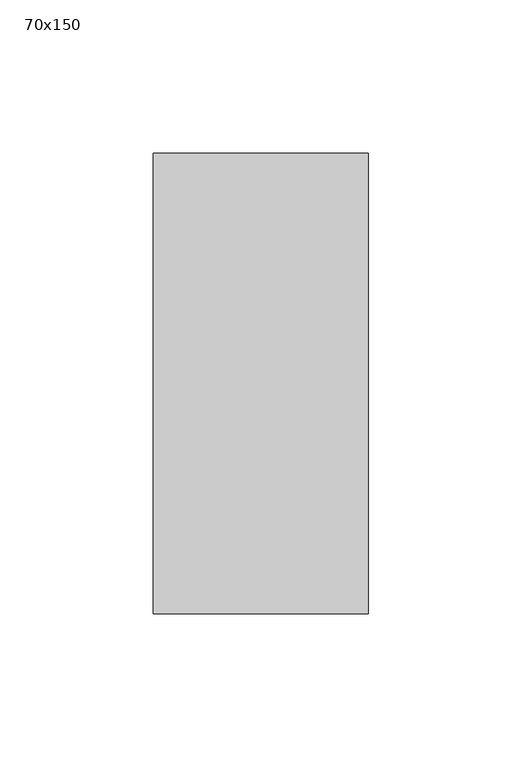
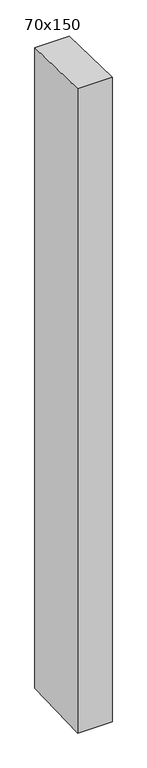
"""IFC4 building model written with IfcOpenShell, lengths in millimetres: member geometry, 長方形のマリオン : 70x150."""

from ifc_helpers import new_model, si_unit, frame, origin, place, context, project, spatial, polyline, outline, extrude, source, transform, mapped, element, save


def member_70x150_3538702d(model_context):
    return source(origin(), model_context, "Body", "SweptSolid", [
        extrude(outline(polyline([(-75.0, 1.3778058), (75.0, -1.3778058), (75.0, -1377.4847874), (-75.0, -1382.2729929), (-75.0, 1.3778058)])), frame((-70.0, 0.0, 0.0), z_axis=(1.0, 0.0, 0.0), x_axis=(0.0, 1.0, 0.0)), (0.0, 0.0, 1.0), 70.0),
    ])


if __name__ == "__main__":
    model = new_model("IFC4")
    model_context = context("Model", 3, world=origin())
    ifc_project = project(units=[si_unit("LENGTHUNIT", "METRE", prefix="MILLI")], contexts=[model_context])
    site = spatial("IfcSite", under=ifc_project)
    building = spatial("IfcBuilding", under=site)
    placement = place(None, origin())
    member_70x150_shape = member_70x150_3538702d(model_context)
    element("IfcMember", 1, ObjectType="長方形のマリオン : 70x150", at=placement, inside=building, context=model_context, shape_type="MappedRepresentation", body=[
        mapped(member_70x150_shape, transform((0.0, 0.0, 0.0), x_axis=(1.0, 0.0, 0.0), y_axis=(0.0, 1.0, 0.0), z_axis=(0.0, 0.0, 1.0))),
    ])
    save(model, "model.ifc")
